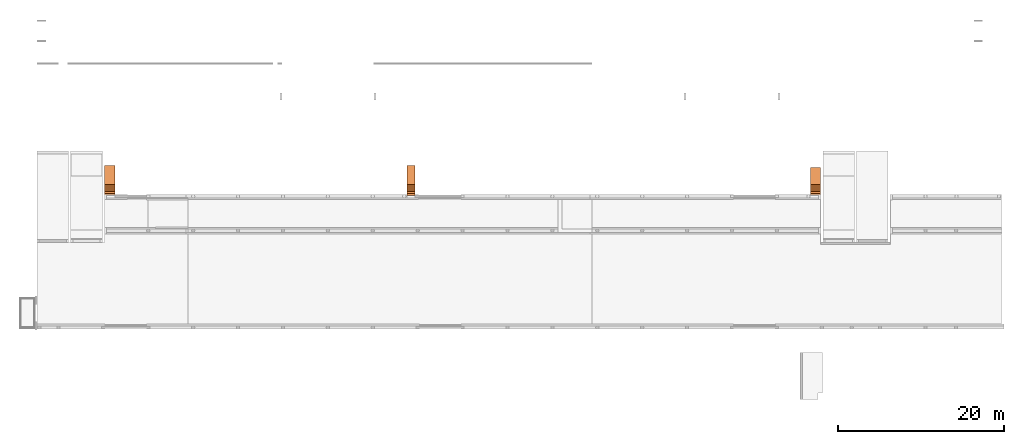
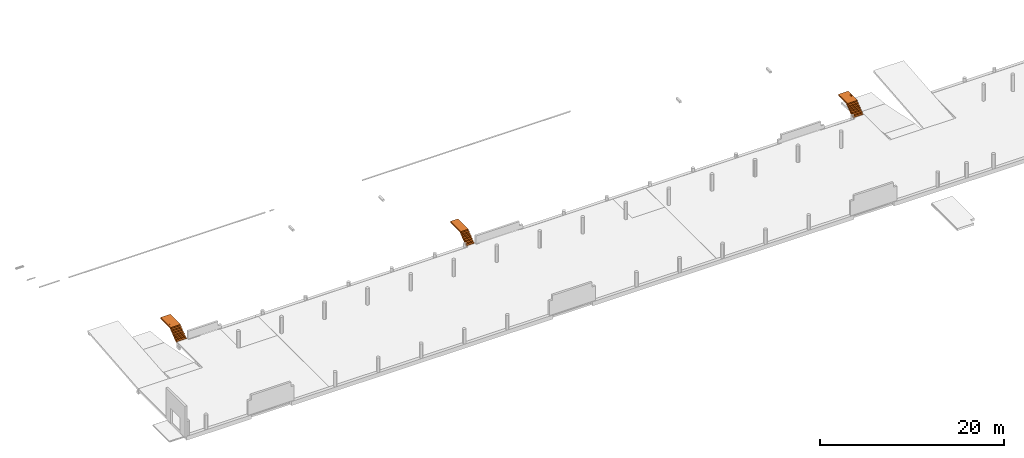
# One storey, part 6 of 6: 3 proxies.
"""IFC2X3 building model written with IfcOpenShell, lengths in millimetres."""

from ifc_helpers import new_model, entity, si_unit, converted_unit, derived_unit, direction, frame, origin, place, context, subcontext, project, spatial, polyline, outline, extrude, source, transform, mapped, material, type_object, type_shapes, element, save


model = new_model("IFC2X3")

# Units and contexts
model_context = context("Model", 3, precision=0.01, world=origin(), true_north=direction((6.12303176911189e-17, 1.0)))
body_context = subcontext(model_context, "Body", "Model", "MODEL_VIEW")
ifc_project = project(units=[si_unit("LENGTHUNIT", "METRE", prefix="MILLI"), si_unit("AREAUNIT", "SQUARE_METRE"), si_unit("VOLUMEUNIT", "CUBIC_METRE"), converted_unit("PLANEANGLEUNIT", "DEGREE", entity("IfcRatioMeasure", 0.0174532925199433), si_unit("PLANEANGLEUNIT", "RADIAN"), dimensions=[0, 0, 0, 0, 0, 0, 0]), si_unit("MASSUNIT", "GRAM", prefix="KILO"), derived_unit("MASSDENSITYUNIT", [(si_unit("MASSUNIT", "GRAM", prefix="KILO"), 1), (si_unit("LENGTHUNIT", "METRE"), -3)]), si_unit("TIMEUNIT", "SECOND"), si_unit("FREQUENCYUNIT", "HERTZ"), si_unit("THERMODYNAMICTEMPERATUREUNIT", "DEGREE_CELSIUS"), derived_unit("THERMALTRANSMITTANCEUNIT", [(si_unit("MASSUNIT", "GRAM", prefix="KILO"), 1), (si_unit("THERMODYNAMICTEMPERATUREUNIT", "KELVIN"), -1), (si_unit("TIMEUNIT", "SECOND"), -3)]), derived_unit("VOLUMETRICFLOWRATEUNIT", [(si_unit("LENGTHUNIT", "METRE"), 3), (si_unit("TIMEUNIT", "SECOND"), -1)]), si_unit("ELECTRICCURRENTUNIT", "AMPERE"), si_unit("ELECTRICVOLTAGEUNIT", "VOLT"), si_unit("POWERUNIT", "WATT"), si_unit("FORCEUNIT", "NEWTON", prefix="KILO"), si_unit("ILLUMINANCEUNIT", "LUX"), si_unit("LUMINOUSFLUXUNIT", "LUMEN"), si_unit("LUMINOUSINTENSITYUNIT", "CANDELA"), derived_unit("USERDEFINED", [(si_unit("MASSUNIT", "GRAM", prefix="KILO"), -1), (si_unit("LENGTHUNIT", "METRE"), -2), (si_unit("TIMEUNIT", "SECOND"), 3), (si_unit("LUMINOUSFLUXUNIT", "LUMEN"), 1)]), derived_unit("LINEARVELOCITYUNIT", [(si_unit("LENGTHUNIT", "METRE"), 1), (si_unit("TIMEUNIT", "SECOND"), -1)]), si_unit("PRESSUREUNIT", "PASCAL"), derived_unit("USERDEFINED", [(si_unit("LENGTHUNIT", "METRE"), -2), (si_unit("MASSUNIT", "GRAM", prefix="KILO"), 1), (si_unit("TIMEUNIT", "SECOND"), -2)])], contexts=[model_context])

# Site, building, storey
site_placement = place(None, origin())
site = spatial("IfcSite", under=ifc_project, at=site_placement, Name="Default", CompositionType="ELEMENT")
building_placement = place(site_placement, origin())
building = spatial("IfcBuilding", under=site, at=building_placement, Name="niet gebruiken", CompositionType="ELEMENT")
storey_placement = place(building_placement, frame((0.0, 0.0, 8370.0)))
storey = spatial("IfcBuildingStorey", under=building, at=storey_placement, Name="02a eerste tussenverdieping", CompositionType="ELEMENT", Elevation=8369.99999999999)

# Proxies
building_element_proxy_type_1 = type_object("IfcBuildingElementProxyType", Name="NLRS_24.11_GM_UN_prefab trap parking bordes l=2020_gen", PredefinedType="NOTDEFINED")
shared_shape_1 = source(origin(), body_context, "Body", "SweptSolid", [
    extrude(outline(polyline([(414.133931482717, 276.282051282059), (654.133931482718, 276.282051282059), (654.133931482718, 321.282051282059), (634.133931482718, 449.615384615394), (874.133931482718, 449.615384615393), (874.133931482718, 579.615384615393), (774.133931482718, 579.615384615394), (774.133931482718, 659.615384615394), (618.344822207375, 659.615384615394), (-737.559177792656, -410.384615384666), (-2465.86606851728, -410.384615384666), (-2465.86606851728, -590.384615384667), (-445.866068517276, -590.384615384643), (-445.866068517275, -545.384615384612), (-465.866068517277, -417.051282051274), (-225.866068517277, -417.051282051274), (-225.866068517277, -372.051282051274), (-245.866068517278, -243.71794871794), (-5.8660685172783, -243.71794871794), (-5.8660685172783, -198.717948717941), (-25.8660685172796, -70.3846153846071), (214.13393148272, -70.3846153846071), (214.13393148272, -25.3846153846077), (194.133931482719, 102.948717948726), (434.133931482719, 102.948717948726), (434.133931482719, 147.948717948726), (414.133931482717, 276.282051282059)])), frame((-1230.0, 654.133931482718, 449.615384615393), z_axis=(1.0, 0.0, 0.0), x_axis=(0.0, -1.0, 0.0)), (0.0, 0.0, 1.0), 1230.0),
    extrude(outline(polyline([(-60.2801699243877, -28.6531383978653), (-60.2801699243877, -47.488696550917), (90.4042953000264, -47.488696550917), (90.4042953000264, -28.6531383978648), (34.5230202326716, -28.6531383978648), (48.18063930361, -15.4645688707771), (52.7331789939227, 0.924574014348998), (48.6312947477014, 19.7969203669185), (37.098194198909, 34.438623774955), (19.1639469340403, 43.4333385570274), (-3.29524887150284, 46.689094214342), (-28.4399832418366, 43.3183754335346), (-47.1467826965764, 33.2062190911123), (-58.7626566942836, 18.3667791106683), (-62.6346146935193, 0.814209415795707), (-57.6406166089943, -15.9336184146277), (-42.6586223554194, -28.6531383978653), (-60.2801699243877, -28.6531383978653)]), holes=[polyline([(-4.17816565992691, -28.653138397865), (-19.8867268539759, -27.3655514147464), (-30.5185165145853, -23.5027904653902), (-40.4789215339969, -13.6343559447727), (-43.7990565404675, -0.804471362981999), (-41.3526412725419, 10.066441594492), (-34.0133954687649, 19.3554619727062), (-21.8273043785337, 25.7290175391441), (-4.84035325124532, 27.85353606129), (12.3949182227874, 25.8163895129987), (24.4430535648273, 19.7049498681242), (31.5339790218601, 10.705636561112), (33.897620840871, 0.00486902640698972), (31.4512055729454, -10.866043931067), (24.1119597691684, -20.1550643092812), (12.1465978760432, -26.5286198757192), (-4.17816565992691, -28.653138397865)])]), frame((-145.872661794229, 1716.4187180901, 1040.0), z_axis=(0.0, 0.0, -1.0), x_axis=(-1.0, 0.0, 0.0)), (0.0, 0.0, -1.0), 10.0),
    extrude(outline(polyline([(-11.1946000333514, -52.2426443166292), (13.7256178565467, -52.2426443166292), (33.0962748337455, -44.5759588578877), (46.302284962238, -30.4665992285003), (52.7285623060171, -11.1385767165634), (52.8795704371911, 2.26160042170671), (49.539603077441, 15.0586597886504), (42.9102470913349, 26.3612191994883), (33.1930893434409, 35.2778964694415), (19.4724914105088, 41.8007990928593), (0.832814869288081, 45.9220345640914), (-22.8762356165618, 45.717254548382), (-41.8930612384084, 37.8901775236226), (-55.142589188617, 23.7682718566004), (-61.5497466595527, 4.67900591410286), (-60.9951142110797, -13.6515433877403), (-53.9645370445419, -29.8701936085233), (-37.0646721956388, -44.5487589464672), (-11.1946000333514, -52.2426443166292)]), holes=[polyline([(-8.64857835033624, -33.5799173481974), (-25.2263685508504, -29.0848574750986), (-36.3325046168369, -20.9461821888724), (-42.1575488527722, -10.2052592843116), (-42.8920635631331, 2.09654344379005), (-38.8516378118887, 13.6120893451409), (-30.3014219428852, 22.3586496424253), (-17.5331679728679, 27.2345846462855), (-0.838627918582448, 27.1382546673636), (16.1172354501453, 22.5908646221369), (27.4101305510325, 14.4263394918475), (33.3060231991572, 3.69417972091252), (34.0708792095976, -8.55611424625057), (30.0134303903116, -20.1946478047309), (21.4625840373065, -28.9457632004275), (8.53602088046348, -33.7580048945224), (-8.64857835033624, -33.5799173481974)])]), frame((-136.995825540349, 1832.87305605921, 1040.0), z_axis=(0.0, 0.0, 1.0), x_axis=(0.990556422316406, 0.137105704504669, 0.0)), (0.0, 0.0, 1.0), 10.0),
    extrude(outline(polyline([(-11.1946000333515, -52.2426443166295), (13.7256178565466, -52.2426443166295), (33.0962748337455, -44.5759588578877), (46.3022849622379, -30.4665992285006), (52.7285623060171, -11.1385767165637), (52.8795704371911, 2.26160042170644), (49.539603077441, 15.0586597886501), (42.9102470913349, 26.3612191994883), (33.1930893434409, 35.2778964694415), (19.4724914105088, 41.8007990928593), (0.832814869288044, 45.9220345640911), (-22.8762356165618, 45.717254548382), (-41.8930612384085, 37.8901775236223), (-55.142589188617, 23.7682718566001), (-61.5497466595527, 4.67900591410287), (-60.9951142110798, -13.6515433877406), (-53.9645370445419, -29.8701936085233), (-37.0646721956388, -44.5487589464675), (-11.1946000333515, -52.2426443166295)]), holes=[polyline([(-8.64857835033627, -33.5799173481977), (-25.2263685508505, -29.0848574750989), (-36.3325046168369, -20.9461821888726), (-42.1575488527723, -10.2052592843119), (-42.8920635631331, 2.09654344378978), (-38.8516378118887, 13.6120893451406), (-30.3014219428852, 22.358649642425), (-17.5331679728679, 27.2345846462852), (-0.838627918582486, 27.1382546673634), (16.1172354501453, 22.5908646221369), (27.4101305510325, 14.4263394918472), (33.3060231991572, 3.69417972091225), (34.0708792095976, -8.55611424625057), (30.0134303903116, -20.1946478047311), (21.4625840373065, -28.9457632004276), (8.53602088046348, -33.7580048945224), (-8.64857835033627, -33.5799173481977)])]), frame((-136.995825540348, 1948.24084974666, 1040.0), z_axis=(0.0, 0.0, 1.0), x_axis=(0.990556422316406, 0.137105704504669, 0.0)), (0.0, 0.0, 1.0), 10.0),
    extrude(outline(polyline([(-26.1606546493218, -81.4207751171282), (-7.32509649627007, -81.4207751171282), (-7.32509649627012, -23.2586316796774), (-4.27167593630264, -1.25928836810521), (2.51574687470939, 9.041407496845), (13.1659306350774, 12.7570156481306), (26.4096824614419, 8.89425469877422), (32.700464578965, 25.7800382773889), (13.7913300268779, 31.5925738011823), (2.01910618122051, 27.9505420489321), (-9.67954126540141, 12.8673802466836), (-9.67954126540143, 29.238129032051), (-26.1606546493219, 29.238129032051), (-26.1606546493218, -81.4207751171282)])), frame((-167.013266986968, 2041.19405725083, 1040.0), z_axis=(0.0, 0.0, 1.0), x_axis=(0.0, 1.0, 0.0)), (0.0, 0.0, 1.0), 10.0),
    extrude(outline(polyline([(-46.0644855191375, -53.4306150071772), (48.1133052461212, -53.4306150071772), (48.1133052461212, -34.5950568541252), (1.06119806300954, -34.5950568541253), (-20.7174160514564, -34.5950568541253), (-11.8882481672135, -24.5150901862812), (45.7588604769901, 41.2254223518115), (45.7588604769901, 57.2282891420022), (-41.3555959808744, 57.2282891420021), (-41.3555959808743, 38.3927309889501), (-0.299965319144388, 38.3927309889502), (18.9402630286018, 38.3927309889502), (-46.0644855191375, -35.6987028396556), (-46.0644855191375, -53.4306150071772)])), frame((-139.023106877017, 2119.95900734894, 1040.0), z_axis=(0.0, 0.0, 1.0), x_axis=(0.0, 1.0, 0.0)), (0.0, 0.0, 1.0), 10.0),
    extrude(outline(polyline([(-11.1946000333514, -52.2426443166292), (13.7256178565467, -52.2426443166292), (33.0962748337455, -44.5759588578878), (46.302284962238, -30.4665992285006), (52.7285623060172, -11.1385767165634), (52.8795704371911, 2.26160042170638), (49.539603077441, 15.0586597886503), (42.9102470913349, 26.3612191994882), (33.193089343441, 35.2778964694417), (19.4724914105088, 41.8007990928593), (0.832814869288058, 45.9220345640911), (-22.8762356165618, 45.717254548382), (-41.8930612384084, 37.8901775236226), (-55.1425891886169, 23.7682718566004), (-61.5497466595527, 4.67900591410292), (-60.9951142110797, -13.6515433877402), (-53.9645370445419, -29.8701936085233), (-37.0646721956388, -44.5487589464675), (-11.1946000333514, -52.2426443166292)]), holes=[polyline([(-8.6485783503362, -33.5799173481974), (-25.2263685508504, -29.0848574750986), (-36.3325046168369, -20.9461821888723), (-42.1575488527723, -10.2052592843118), (-42.8920635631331, 2.09654344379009), (-38.8516378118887, 13.6120893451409), (-30.3014219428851, 22.3586496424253), (-17.5331679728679, 27.2345846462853), (-0.838627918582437, 27.1382546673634), (16.1172354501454, 22.5908646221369), (27.4101305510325, 14.4263394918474), (33.3060231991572, 3.69417972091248), (34.0708792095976, -8.55611424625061), (30.0134303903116, -20.1946478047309), (21.4625840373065, -28.9457632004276), (8.53602088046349, -33.7580048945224), (-8.6485783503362, -33.5799173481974)])]), frame((-136.995825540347, 2235.4831115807, 1040.0), z_axis=(0.0, 0.0, 1.0), x_axis=(0.990556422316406, 0.137105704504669, 0.0)), (0.0, 0.0, 1.0), 10.0),
    extrude(outline(polyline([(-46.9540053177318, -73.7182963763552), (-28.1184471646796, -73.7182963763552), (-28.1184471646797, -15.0043299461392), (-25.9709360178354, 2.350503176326), (-19.5284025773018, 13.0650662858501), (-10.1244190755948, 18.6108873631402), (0.907442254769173, 20.4594943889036), (13.8384943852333, 17.1669505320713), (21.5088339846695, 8.35617674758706), (23.6793377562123, -8.30887763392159), (23.6793377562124, -73.7182963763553), (42.5148959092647, -73.7182963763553), (42.5148959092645, -5.77049186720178), (41.521614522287, 12.4396668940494), (35.874625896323, 26.2904240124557), (23.7345200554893, 35.7082030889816), (5.94742558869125, 39.2950525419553), (-13.7158670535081, 34.8436804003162), (-28.1184471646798, 21.4895639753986), (-28.1184471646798, 36.940607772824), (-46.954005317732, 36.9406077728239), (-46.9540053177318, -73.7182963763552)])), frame((-159.310788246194, 2349.22966975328, 1040.0), z_axis=(0.0, 0.0, 1.0), x_axis=(0.0, 1.0, 0.0)), (0.0, 0.0, 1.0), 10.0),
    extrude(outline(polyline([(-12.151923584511, -30.5627594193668), (-23.3028322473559, -45.4710024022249), (-8.67600558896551, -50.3662606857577), (6.18277634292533, -49.9698260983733), (20.8164252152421, -44.1721168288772), (34.7678526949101, -32.8635510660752), (47.4570640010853, -14.3885693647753), (51.2430729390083, 5.61202992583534), (45.9060763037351, 25.8663302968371), (31.2262708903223, 45.1024152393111), (10.9154740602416, 59.6770093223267), (-9.99269287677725, 64.667672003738), (-29.9463894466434, 60.6331852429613), (-47.393775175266, 48.1323309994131), (-58.8653278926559, 30.7635073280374), (-61.9660241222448, 11.0147969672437), (-56.1560561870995, -9.52443743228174), (-40.8956164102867, -29.2648332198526), (-37.1706876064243, -32.7160206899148), (21.6964908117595, 28.1133970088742), (29.5607979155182, 15.9656989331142), (31.7422008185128, 3.31507577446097), (28.7208128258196, -8.97205129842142), (20.9767472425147, -20.0292611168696), (5.30526907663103, -30.5627594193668), (-12.151923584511, -30.5627594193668)]), holes=[polyline([(8.16121838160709, 41.2120477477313), (-37.6840592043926, -6.16140575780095), (-43.063374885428, 2.58957596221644), (-44.7058228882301, 11.128642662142), (-41.8277013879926, 23.6248066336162), (-33.8073361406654, 35.0865524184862), (-23.7122716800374, 42.9855035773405), (-12.6145549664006, 46.8552978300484), (-1.62109020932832, 46.3720932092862), (8.16121838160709, 41.2120477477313)])]), frame((-131.076318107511, 2464.70623388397, 1040.0), z_axis=(0.0, 0.0, -1.0), x_axis=(0.718602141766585, -0.695421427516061, 0.0)), (0.0, 0.0, -1.0), 10.0),
])
type_shapes(building_element_proxy_type_1, [shared_shape_1])
proxy_1_placement = place(storey_placement, frame((102455.0, 25316.0, 0.0)))
element("IfcBuildingElementProxy", 1, at=proxy_1_placement, inside=storey, type_object=building_element_proxy_type_1, Name="NLRS_24.11_GM_UN_prefab trap parking_gen:NLRS_24.11_GM_UN_prefab trap parking bordes l=2020_gen", ObjectType="NLRS_24.11_GM_UN_prefab trap parking bordes l=2020_gen", context=body_context, shape_type="MappedRepresentation", body=[
    mapped(shared_shape_1, transform((0.0, 0.0, 0.0), scale=1.0)),
])
building_element_proxy_type_2 = type_object("IfcBuildingElementProxyType", Name="NLRS_24.11_GM_UN_prefab trap parking bordes l=2245_gen", PredefinedType="NOTDEFINED")
shared_shape_2 = source(origin(), body_context, "Body", "SweptSolid", [
    extrude(outline(polyline([(431.44162379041, 276.282051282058), (671.441623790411, 276.282051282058), (671.441623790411, 321.282051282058), (651.44162379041, 449.615384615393), (891.44162379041, 449.615384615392), (891.441623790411, 579.615384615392), (791.44162379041, 579.615384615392), (791.441623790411, 659.615384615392), (635.652514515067, 659.615384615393), (-720.251485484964, -410.384615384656), (-2673.55837620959, -410.384615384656), (-2673.55837620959, -590.384615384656), (-428.558376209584, -590.384615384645), (-428.558376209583, -545.384615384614), (-448.558376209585, -417.051282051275), (-208.558376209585, -417.051282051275), (-208.558376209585, -372.051282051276), (-228.558376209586, -243.717948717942), (11.4416237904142, -243.717948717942), (11.4416237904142, -198.717948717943), (-8.55837620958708, -70.3846153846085), (231.441623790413, -70.3846153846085), (231.441623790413, -25.384615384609), (211.441623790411, 102.948717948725), (451.441623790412, 102.948717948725), (451.441623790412, 147.948717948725), (431.44162379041, 276.282051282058)])), frame((-950.0, 671.441623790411, 449.615384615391), z_axis=(1.0, 0.0, 0.0), x_axis=(0.0, -1.0, 0.0)), (0.0, 0.0, 1.0), 949.999999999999),
])
type_shapes(building_element_proxy_type_2, [shared_shape_2])
proxy_2_placement = place(storey_placement, frame((53670.0, 25316.0, 0.0)))
element("IfcBuildingElementProxy", 2, at=proxy_2_placement, inside=storey, type_object=building_element_proxy_type_2, Name="NLRS_24.11_GM_UN_prefab trap parking_gen:NLRS_24.11_GM_UN_prefab trap parking bordes l=2245_gen", ObjectType="NLRS_24.11_GM_UN_prefab trap parking bordes l=2245_gen", context=body_context, shape_type="MappedRepresentation", body=[
    mapped(shared_shape_2, transform((0.0, 0.0, 0.0), scale=1.0)),
])
ifc_material = material(Name="Analytical Floor Surface")
building_element_proxy_type_3 = type_object("IfcBuildingElementProxyType", Name="NLRS_24.11_GM_UN_prefab trap parking bordes l=2245 b=1230_gen", PredefinedType="NOTDEFINED", material=ifc_material)
shared_shape_3 = source(origin(), body_context, "Body", "SweptSolid", [
    extrude(outline(polyline([(431.44162379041, 276.282051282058), (671.441623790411, 276.282051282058), (671.441623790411, 321.282051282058), (651.44162379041, 449.615384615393), (891.44162379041, 449.615384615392), (891.441623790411, 579.615384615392), (791.44162379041, 579.615384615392), (791.441623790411, 659.615384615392), (635.652514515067, 659.615384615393), (-720.251485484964, -410.384615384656), (-2673.55837620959, -410.384615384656), (-2673.55837620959, -590.384615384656), (-428.558376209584, -590.384615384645), (-428.558376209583, -545.384615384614), (-448.558376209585, -417.051282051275), (-208.558376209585, -417.051282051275), (-208.558376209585, -372.051282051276), (-228.558376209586, -243.717948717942), (11.4416237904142, -243.717948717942), (11.4416237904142, -198.717948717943), (-8.55837620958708, -70.3846153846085), (231.441623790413, -70.3846153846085), (231.441623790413, -25.384615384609), (211.441623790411, 102.948717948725), (451.441623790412, 102.948717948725), (451.441623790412, 147.948717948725), (431.44162379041, 276.282051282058)])), frame((-1230.0, 671.441623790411, 449.615384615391), z_axis=(1.0, 0.0, 0.0), x_axis=(0.0, -1.0, 0.0)), (0.0, 0.0, 1.0), 1230.0),
    extrude(outline(polyline([(-60.2801699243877, -28.6531383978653), (-60.2801699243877, -47.4886965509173), (90.4042953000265, -47.4886965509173), (90.4042953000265, -28.653138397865), (34.5230202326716, -28.653138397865), (48.18063930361, -15.4645688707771), (52.7331789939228, 0.924574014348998), (48.6312947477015, 19.7969203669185), (37.0981941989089, 34.4386237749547), (19.1639469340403, 43.4333385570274), (-3.29524887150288, 46.6890942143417), (-28.4399832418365, 43.3183754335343), (-47.1467826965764, 33.2062190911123), (-58.7626566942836, 18.3667791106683), (-62.6346146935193, 0.814209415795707), (-57.6406166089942, -15.9336184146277), (-42.6586223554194, -28.6531383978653), (-60.2801699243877, -28.6531383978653)]), holes=[polyline([(-4.1781656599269, -28.6531383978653), (-19.8867268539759, -27.3655514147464), (-30.5185165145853, -23.5027904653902), (-40.4789215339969, -13.6343559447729), (-43.7990565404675, -0.80447136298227), (-41.3526412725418, 10.066441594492), (-34.013395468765, 19.3554619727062), (-21.8273043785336, 25.7290175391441), (-4.84035325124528, 27.85353606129), (12.3949182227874, 25.8163895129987), (24.4430535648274, 19.7049498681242), (31.5339790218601, 10.705636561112), (33.897620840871, 0.00486902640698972), (31.4512055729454, -10.8660439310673), (24.1119597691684, -20.1550643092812), (12.1465978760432, -26.5286198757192), (-4.1781656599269, -28.6531383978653)])]), frame((-1085.28016992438, 1744.60796934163, 1040.0), z_axis=(0.0, 0.0, -1.0), x_axis=(-1.0, 0.0, 0.0)), (0.0, 0.0, -1.0), 10.0),
    extrude(outline(polyline([(-11.1946000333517, -52.2426443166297), (13.7256178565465, -52.2426443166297), (33.0962748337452, -44.5759588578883), (46.3022849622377, -30.4665992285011), (52.728562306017, -11.138576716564), (52.8795704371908, 2.26160042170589), (49.5396030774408, 15.0586597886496), (42.9102470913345, 26.3612191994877), (33.1930893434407, 35.2778964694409), (19.4724914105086, 41.8007990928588), (0.832814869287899, 45.9220345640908), (-22.8762356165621, 45.7172545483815), (-41.8930612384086, 37.8901775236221), (-55.1425891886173, 23.7682718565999), (-61.5497466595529, 4.6790059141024), (-60.99511421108, -13.6515433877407), (-53.9645370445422, -29.8701936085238), (-37.0646721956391, -44.548758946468), (-11.1946000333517, -52.2426443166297)]), holes=[polyline([(-8.64857835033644, -33.5799173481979), (-25.2263685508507, -29.0848574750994), (-36.3325046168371, -20.9461821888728), (-42.1575488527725, -10.2052592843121), (-42.8920635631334, 2.09654344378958), (-38.851637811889, 13.6120893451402), (-30.3014219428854, 22.3586496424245), (-17.5331679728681, 27.2345846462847), (-0.838627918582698, 27.1382546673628), (16.1172354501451, 22.5908646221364), (27.4101305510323, 14.4263394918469), (33.306023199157, 3.69417972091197), (34.0708792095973, -8.55611424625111), (30.0134303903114, -20.1946478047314), (21.4625840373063, -28.9457632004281), (8.53602088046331, -33.7580048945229), (-8.64857835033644, -33.5799173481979)])]), frame((-1076.4033336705, 1861.06230731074, 1040.0), z_axis=(0.0, 0.0, 1.0), x_axis=(0.990556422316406, 0.137105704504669, 0.0)), (0.0, 0.0, 1.0), 10.0),
    extrude(outline(polyline([(-11.1946000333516, -52.2426443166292), (13.7256178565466, -52.2426443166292), (33.0962748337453, -44.5759588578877), (46.3022849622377, -30.4665992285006), (52.7285623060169, -11.1385767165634), (52.8795704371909, 2.26160042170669), (49.5396030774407, 15.0586597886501), (42.9102470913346, 26.3612191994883), (33.1930893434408, 35.2778964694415), (19.4724914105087, 41.8007990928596), (0.832814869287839, 45.9220345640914), (-22.876235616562, 45.7172545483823), (-41.8930612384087, 37.8901775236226), (-55.1425891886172, 23.7682718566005), (-61.5497466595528, 4.67900591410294), (-60.9951142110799, -13.6515433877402), (-53.9645370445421, -29.8701936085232), (-37.064672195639, -44.5487589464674), (-11.1946000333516, -52.2426443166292)]), holes=[polyline([(-8.64857835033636, -33.5799173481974), (-25.2263685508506, -29.0848574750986), (-36.3325046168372, -20.9461821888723), (-42.1575488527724, -10.2052592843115), (-42.8920635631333, 2.09654344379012), (-38.851637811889, 13.6120893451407), (-30.3014219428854, 22.3586496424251), (-17.5331679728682, 27.2345846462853), (-0.838627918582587, 27.1382546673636), (16.1172354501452, 22.5908646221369), (27.4101305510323, 14.4263394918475), (33.3060231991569, 3.69417972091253), (34.0708792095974, -8.55611424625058), (30.0134303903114, -20.1946478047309), (21.4625840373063, -28.9457632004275), (8.53602088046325, -33.7580048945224), (-8.64857835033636, -33.5799173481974)])]), frame((-1076.4033336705, 1976.43010099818, 1040.0), z_axis=(0.0, 0.0, 1.0), x_axis=(0.990556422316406, 0.137105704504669, 0.0)), (0.0, 0.0, 1.0), 10.0),
    extrude(outline(polyline([(-26.1606546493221, -81.4207751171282), (-7.3250964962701, -81.4207751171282), (-7.32509649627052, -23.2586316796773), (-4.27167593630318, -1.2592883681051), (2.51574687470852, 9.04140749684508), (13.1659306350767, 12.7570156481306), (26.4096824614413, 8.89425469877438), (32.7004645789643, 25.7800382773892), (13.7913300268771, 31.5925738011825), (2.01910618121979, 27.9505420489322), (-9.67954126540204, 12.8673802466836), (-9.67954126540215, 29.2381290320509), (-26.1606546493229, 29.2381290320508), (-26.1606546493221, -81.4207751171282)])), frame((-1106.42077511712, 2069.38330850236, 1040.0), z_axis=(0.0, 0.0, 1.0), x_axis=(0.0, 1.0, 0.0)), (0.0, 0.0, 1.0), 10.0),
    extrude(outline(polyline([(-46.0644855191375, -53.4306150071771), (48.1133052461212, -53.4306150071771), (48.1133052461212, -34.5950568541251), (1.06119806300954, -34.5950568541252), (-20.7174160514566, -34.5950568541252), (-11.8882481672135, -24.5150901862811), (45.7588604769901, 41.2254223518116), (45.7588604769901, 57.2282891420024), (-41.3555959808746, 57.2282891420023), (-41.3555959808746, 38.3927309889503), (-0.299965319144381, 38.3927309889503), (18.9402630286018, 38.3927309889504), (-46.0644855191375, -35.6987028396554), (-46.0644855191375, -53.4306150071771)])), frame((-1078.43061500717, 2148.14825860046, 1040.0), z_axis=(0.0, 0.0, 1.0), x_axis=(0.0, 1.0, 0.0)), (0.0, 0.0, 1.0), 10.0),
    extrude(outline(polyline([(-11.1946000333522, -52.2426443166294), (13.725617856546, -52.2426443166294), (33.0962748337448, -44.5759588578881), (46.3022849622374, -30.4665992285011), (52.7285623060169, -11.138576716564), (52.879570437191, 2.26160042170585), (49.539603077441, 15.0586597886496), (42.910247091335, 26.3612191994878), (33.1930893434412, 35.2778964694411), (19.4724914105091, 41.8007990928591), (0.832814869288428, 45.9220345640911), (-22.8762356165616, 45.717254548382), (-41.8930612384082, 37.8901775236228), (-55.1425891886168, 23.768271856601), (-61.5497466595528, 4.67900591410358), (-60.99511421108, -13.6515433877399), (-53.9645370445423, -29.8701936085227), (-37.0646721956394, -44.5487589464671), (-11.1946000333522, -52.2426443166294)]), holes=[polyline([(-8.64857835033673, -33.5799173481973), (-25.2263685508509, -29.0848574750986), (-36.3325046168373, -20.9461821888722), (-42.1575488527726, -10.2052592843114), (-42.8920635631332, 2.09654344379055), (-38.8516378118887, 13.6120893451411), (-30.3014219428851, 22.3586496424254), (-17.5331679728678, 27.2345846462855), (-0.838627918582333, 27.1382546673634), (16.1172354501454, 22.5908646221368), (27.4101305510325, 14.4263394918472), (33.3060231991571, 3.69417972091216), (34.0708792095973, -8.55611424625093), (30.0134303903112, -20.1946478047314), (21.462584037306, -28.9457632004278), (8.53602088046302, -33.7580048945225), (-8.64857835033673, -33.5799173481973)])]), frame((-1076.4033336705, 2263.67236283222, 1040.0), z_axis=(0.0, 0.0, 1.0), x_axis=(0.990556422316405, 0.13710570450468, 0.0)), (0.0, 0.0, 1.0), 10.0),
    extrude(outline(polyline([(-46.9540053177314, -73.7182963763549), (-28.1184471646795, -73.7182963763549), (-28.1184471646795, -15.0043299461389), (-25.9709360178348, 2.35050317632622), (-19.5284025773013, 13.0650662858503), (-10.1244190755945, 18.6108873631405), (0.90744225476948, 20.4594943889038), (13.8384943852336, 17.1669505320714), (21.50883398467, 8.35617674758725), (23.6793377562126, -8.3088776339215), (23.6793377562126, -73.7182963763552), (42.5148959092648, -73.7182963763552), (42.5148959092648, -5.77049186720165), (41.5216145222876, 12.4396668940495), (35.8746258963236, 26.2904240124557), (23.7345200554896, 35.7082030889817), (5.9474255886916, 39.2950525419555), (-13.7158670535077, 34.8436804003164), (-28.1184471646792, 21.4895639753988), (-28.1184471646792, 36.9406077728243), (-46.9540053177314, 36.9406077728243), (-46.9540053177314, -73.7182963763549)])), frame((-1098.71829637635, 2377.41892100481, 1040.0), z_axis=(0.0, 0.0, 1.0), x_axis=(0.0, 1.0, 0.0)), (0.0, 0.0, 1.0), 10.0),
    extrude(outline(polyline([(-12.1519235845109, -30.5627594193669), (-23.3028322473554, -45.4710024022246), (-8.67600558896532, -50.3662606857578), (6.18277634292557, -49.9698260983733), (20.8164252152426, -44.1721168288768), (34.7678526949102, -32.8635510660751), (47.4570640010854, -14.3885693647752), (51.2430729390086, 5.61202992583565), (45.9060763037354, 25.8663302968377), (31.2262708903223, 45.1024152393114), (10.9154740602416, 59.677009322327), (-9.99269287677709, 64.6676720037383), (-29.9463894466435, 60.6331852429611), (-47.393775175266, 48.1323309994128), (-58.8653278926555, 30.7635073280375), (-61.9660241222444, 11.0147969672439), (-56.156056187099, -9.52443743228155), (-40.8956164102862, -29.2648332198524), (-37.1706876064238, -32.7160206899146), (21.6964908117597, 28.1133970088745), (29.5607979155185, 15.9656989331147), (31.7422008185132, 3.31507577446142), (28.7208128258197, -8.97205129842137), (20.9767472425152, -20.0292611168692), (5.30526907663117, -30.5627594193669), (-12.1519235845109, -30.5627594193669)]), holes=[polyline([(8.16121838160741, 41.2120477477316), (-37.6840592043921, -6.16140575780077), (-43.063374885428, 2.58957596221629), (-44.7058228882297, 11.1286426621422), (-41.8277013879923, 23.6248066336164), (-33.8073361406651, 35.0865524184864), (-23.7122716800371, 42.9855035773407), (-12.6145549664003, 46.8552978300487), (-1.62109020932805, 46.3720932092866), (8.16121838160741, 41.2120477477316)])]), frame((-1070.48382623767, 2492.89548513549, 1040.0), z_axis=(0.0, 0.0, -1.0), x_axis=(0.718602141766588, -0.695421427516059, 0.0)), (0.0, 0.0, -1.0), 10.0),
])
type_shapes(building_element_proxy_type_3, [shared_shape_3])
proxy_3_placement = place(storey_placement, frame((17575.0, 25316.0, 0.0)))
element("IfcBuildingElementProxy", 3, at=proxy_3_placement, inside=storey, type_object=building_element_proxy_type_3, material=ifc_material, Name="NLRS_24.11_GM_UN_prefab trap parking_gen:NLRS_24.11_GM_UN_prefab trap parking bordes l=2245 b=1230_gen", ObjectType="NLRS_24.11_GM_UN_prefab trap parking bordes l=2245 b=1230_gen", context=body_context, shape_type="MappedRepresentation", body=[
    mapped(shared_shape_3, transform((0.0, 0.0, 0.0), scale=1.0)),
])

save(model, "model.ifc")
